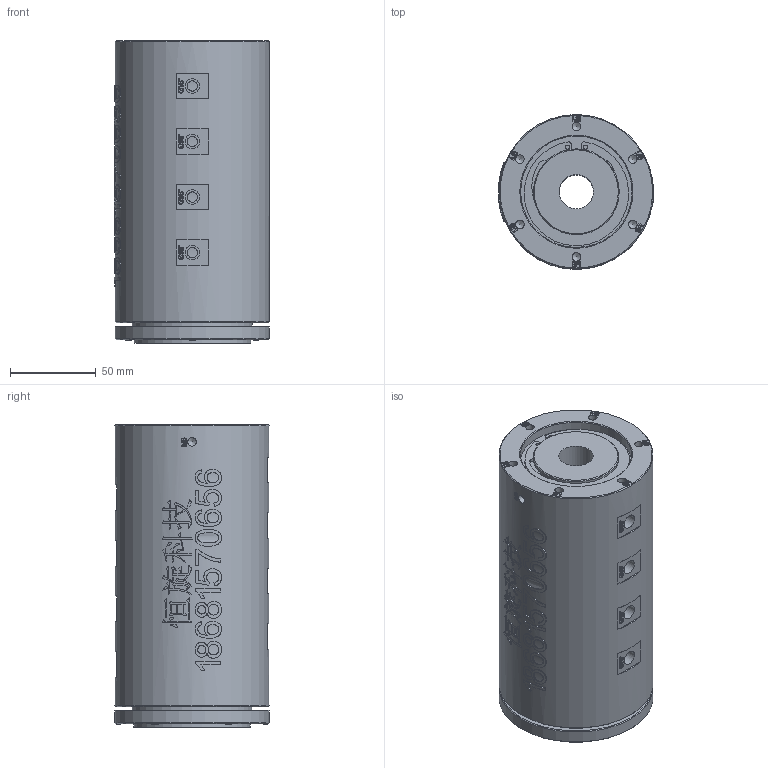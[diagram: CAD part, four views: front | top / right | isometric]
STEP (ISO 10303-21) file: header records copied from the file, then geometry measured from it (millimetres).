
FILE_DESCRIPTION(/* description */ (''),/* implementation_level */ '2;1');
FILE_NAME(/* name */ 'HY0801-3D模型.stp',/* time_stamp */ '2025-09-23T17:20:49+08:00',/* author */ (''),/* organization */ (''),/* preprocessor_version */ 'ST-DEVELOPER v16.7',/* originating_system */ 'SIEMENS PLM Software NX 12.0',/* authorisation */ '');
FILE_SCHEMA (('AUTOMOTIVE_DESIGN { 1 0 10303 214 3 1 1 1 }'));
Products named in the file (1): Admi8A8072AE0xby
Bounding box: 90.58 x 90 x 176.9 mm (x, y, z)
Volume: 1034236.6 mm3; surface area: 87695.5 mm2
Topology: 1 solids, 1 shells, 2607 faces, 7088 edges, 4729 vertices
Faces by surface type: extrusion 1439, plane 918, bspline 150, cylinder 86, cone 14
Full cylindrical faces by diameter (mm): 2.5 x2, 5 x14, 6 x16, 8.5 x16, 20 x1, 48 x1, 50 x1, 65 x1, 68 x1, 70 x1, 90 x2
Entity records: 105366 total; most frequent: CARTESIAN_POINT 50705, ORIENTED_EDGE 13906, EDGE_CURVE 6953, B_SPLINE_CURVE_WITH_KNOTS 6721, DIRECTION 5445, VERTEX_POINT 4680, EDGE_LOOP 2945, VECTOR 2813
